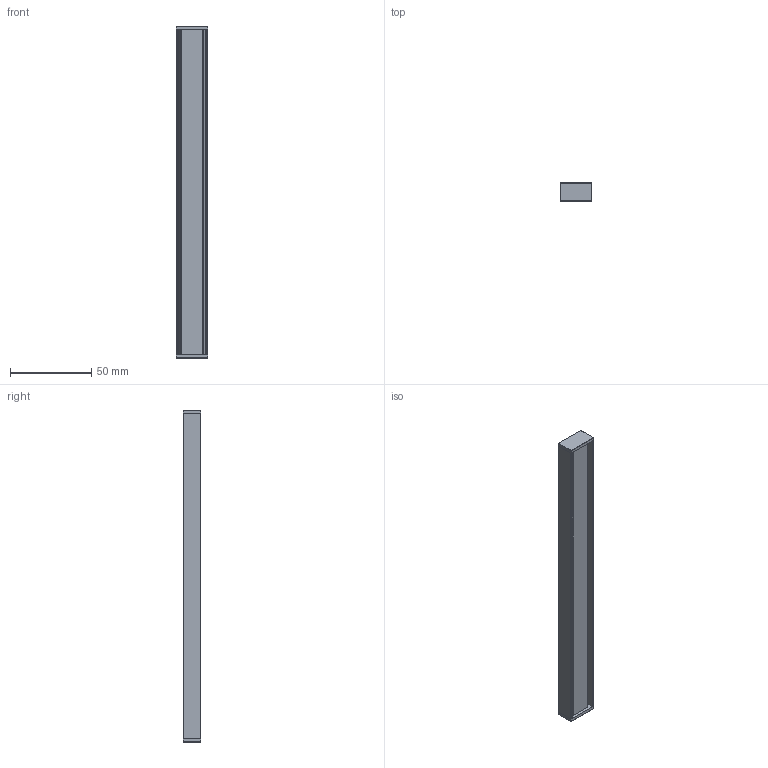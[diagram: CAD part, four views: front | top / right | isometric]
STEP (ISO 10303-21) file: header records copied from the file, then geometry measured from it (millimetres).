
FILE_DESCRIPTION (( 'STEP AP203' ), '1' );
FILE_NAME ('AS5.STEP', '2025-04-18T06:04:27', ( '' ), ( '' ), 'SwSTEP 2.0', 'SolidWorks 2023', '' );
FILE_SCHEMA (( 'CONFIG_CONTROL_DESIGN' ));
Length unit declared in the file: millimetre
Products named in the file (4): AS5; AS5 END CAP; AS5 LENS CONFIG; AS5 CHANNEL CONFIG
Assembly tree (4 placements, depth 2):
  AS5
    AS5 CHANNEL CONFIG
    AS5 LENS CONFIG
    AS5 END CAP  x2
Bounding box: 19.57 x 11.04 x 204 mm (x, y, z)
Volume: 17455.2 mm3; surface area: 29429 mm2
Topology: 4 solids, 4 shells, 146 faces, 390 edges, 252 vertices
Faces by surface type: plane 66, bspline 64, cylinder 8, sphere 8
Entity records: 4808 total; most frequent: CARTESIAN_POINT 1537, ORIENTED_EDGE 708, DIRECTION 376, EDGE_CURVE 354, VERTEX_POINT 232, VECTOR 226, LINE 226, EDGE_LOOP 128
